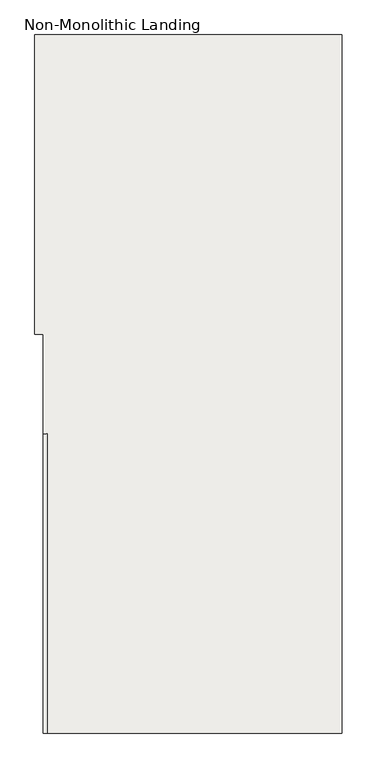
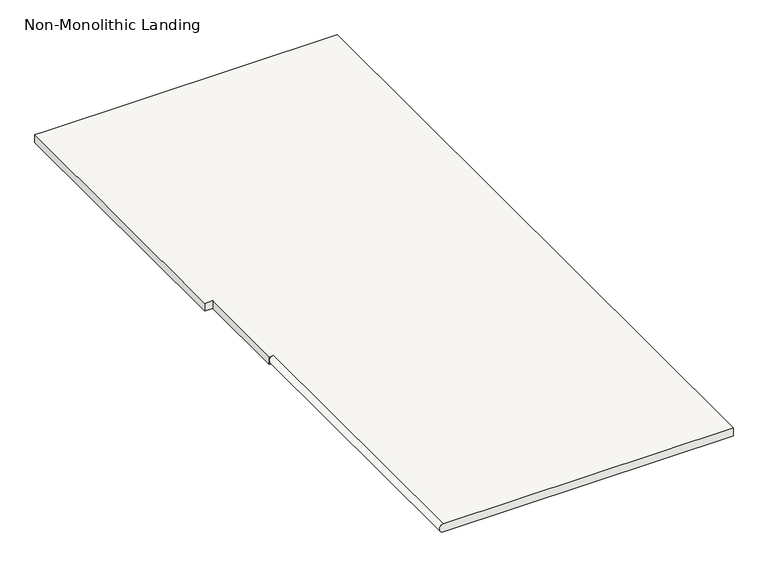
"""IFC4 building model written with IfcOpenShell, lengths in millimetres: slab geometry, Non-Monolithic Landing."""

from ifc_helpers import new_model, si_unit, frame, origin, place, context, project, spatial, circle_curve, source, transform, mapped, element, save
from ifc_brep_helpers import plane_surface, cylinder_surface, advanced_brep


def non_monolithic_landing_57681d34(model_context):
    return source(origin(), model_context, "Body", "AdvancedBrep", [
        advanced_brep(
        [(-15991.3481446, 7003.9128094, 1498.6), (-15991.3481446, 7003.9128094, 1524.0), (-15991.3481446, 7918.3128094, 1524.0), (-16004.0481446, 7918.3128094, 1511.3), (-15991.3481446, 7918.3128094, 1498.6), (-16004.0481446, 7918.3128094, 1524.0), (-15089.6481446, 7003.9128094, 1524.0), (-15089.6481446, 9137.5128094, 1524.0), (-16004.0481446, 9137.5128094, 1524.0), (-16029.4481446, 9137.5128094, 1524.0), (-16029.4481446, 8223.1128094, 1524.0), (-16004.0481446, 8223.1128094, 1524.0), (-16004.0481446, 7918.3128094, 1498.6), (-16004.0481446, 8223.1128094, 1498.6), (-16029.4481446, 8223.1128094, 1498.6), (-16029.4481446, 9137.5128094, 1498.6), (-16004.0481446, 9137.5128094, 1498.6), (-15089.6481446, 9137.5128094, 1498.6), (-15089.6481446, 7003.9128094, 1498.6)],
        [
            (0, 1, circle_curve(frame((-15991.3481446, 7003.9128094, 1511.3), z_axis=(0.0, 1.0, 0.0), x_axis=(1.0, 0.0, 0.0)), 12.7)),
            (1, 2),
            (2, 3, circle_curve(frame((-15991.3481446, 7918.3128094, 1511.3), z_axis=(0.0, -1.0, 0.0), x_axis=(1.0, 0.0, 0.0)), 12.7)),
            (3, 4, circle_curve(frame((-15991.3481446, 7918.3128094, 1511.3), z_axis=(0.0, -1.0, 0.0), x_axis=(1.0, 0.0, 0.0)), 12.7)),
            (4, 0),
            (5, 2),
            (1, 6),
            (6, 7),
            (7, 8),
            (8, 9),
            (9, 10),
            (10, 11),
            (11, 5),
            (4, 12),
            (12, 13),
            (13, 14),
            (14, 15),
            (15, 16),
            (16, 17),
            (17, 18),
            (18, 0),
            (5, 3),
            (3, 12),
            (18, 6),
            (17, 7),
            (16, 8),
            (15, 9),
            (14, 10),
            (13, 11),
        ],
        [
            cylinder_surface(frame((-15991.3481446, 7003.9128094, 1511.3), z_axis=(0.0, -1.0, 0.0), x_axis=(1.0, 0.0, 0.0)), 12.7),
            plane_surface(frame((-16004.0481446, 7918.3128094, 1524.0), z_axis=(0.0, 0.0, 1.0), x_axis=(1.0, 0.0, 0.0))),
            plane_surface(frame((-16004.0481446, 7918.3128094, 1498.6), z_axis=(0.0, 0.0, -1.0), x_axis=(-1.0, 0.0, 0.0))),
            plane_surface(frame((-16004.0481446, 7918.3128094, 1524.0), z_axis=(0.0, -1.0, 0.0), x_axis=(0.0, 0.0, -1.0))),
            plane_surface(frame((-15991.3481446, 7003.9128094, 1524.0), z_axis=(0.0, -1.0, 0.0), x_axis=(0.0, 0.0, -1.0))),
            plane_surface(frame((-15089.6481446, 7003.9128094, 1524.0), z_axis=(1.0, 0.0, 0.0), x_axis=(0.0, 0.0, -1.0))),
            plane_surface(frame((-15089.6481446, 9137.5128094, 1524.0), z_axis=(0.0, 1.0, 0.0), x_axis=(0.0, 0.0, -1.0))),
            plane_surface(frame((-16004.0481446, 9137.5128094, 1524.0), z_axis=(0.0, 1.0, 0.0), x_axis=(0.0, 0.0, -1.0))),
            plane_surface(frame((-16029.4481446, 9137.5128094, 1524.0), z_axis=(-1.0, 0.0, 0.0), x_axis=(0.0, 0.0, -1.0))),
            plane_surface(frame((-16029.4481446, 8223.1128094, 1524.0), z_axis=(0.0, -1.0, 0.0), x_axis=(0.0, 0.0, -1.0))),
            plane_surface(frame((-16004.0481446, 8223.1128094, 1524.0), z_axis=(-1.0, 0.0, 0.0), x_axis=(0.0, 0.0, -1.0))),
        ],
        [
            (0, [[1, 2, 3, 4, 5]]),
            (1, [[6, -2, 7, 8, 9, 10, 11, 12, 13]]),
            (2, [[14, 15, 16, 17, 18, 19, 20, 21, -5]]),
            (3, [[-6, 22, -3]]),
            (3, [[-14, -4, 23]]),
            (4, [[-7, -1, -21, 24]]),
            (5, [[-8, -24, -20, 25]]),
            (6, [[-9, -25, -19, 26]]),
            (7, [[-10, -26, -18, 27]]),
            (8, [[-11, -27, -17, 28]]),
            (9, [[-12, -28, -16, 29]]),
            (10, [[-13, -29, -15, -23, -22]]),
        ],
    ),
    ])


if __name__ == "__main__":
    model = new_model("IFC4")
    model_context = context("Model", 3, world=origin())
    ifc_project = project(units=[si_unit("LENGTHUNIT", "METRE", prefix="MILLI")], contexts=[model_context])
    site = spatial("IfcSite", under=ifc_project)
    building = spatial("IfcBuilding", under=site)
    placement = place(None, origin())
    non_monolithic_landing_shape = non_monolithic_landing_57681d34(model_context)
    element("IfcSlab", 1, ObjectType="Non-Monolithic Landing", at=placement, inside=building, context=model_context, shape_type="MappedRepresentation", body=[
        mapped(non_monolithic_landing_shape, transform((0.0, 0.0, 0.0), x_axis=(1.0, 0.0, 0.0), y_axis=(0.0, 1.0, 0.0), z_axis=(0.0, 0.0, 1.0))),
    ])
    save(model, "model.ifc")
